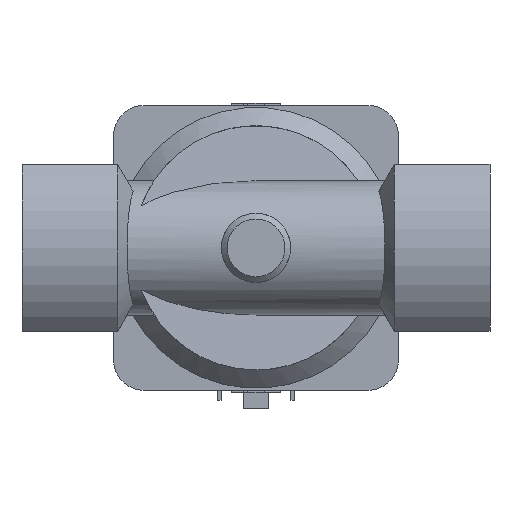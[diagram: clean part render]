
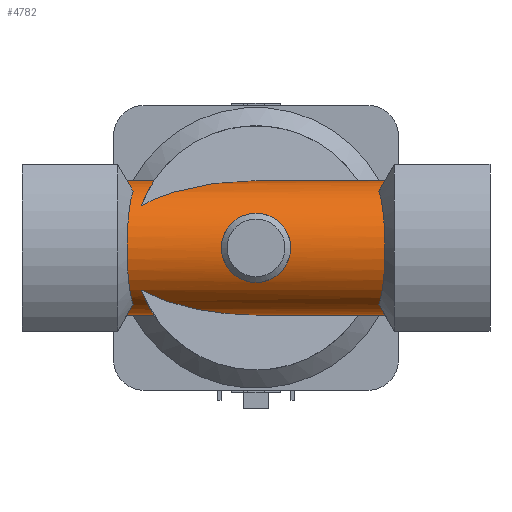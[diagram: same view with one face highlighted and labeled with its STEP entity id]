
A CAD part, front view. The second image highlights one B-rep face of the part: STEP entity #4782.
In plain terms, the highlighted cylindrical face has radius 16.5 mm (diameter 33 mm), a partial arc.
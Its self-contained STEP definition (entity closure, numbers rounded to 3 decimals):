
#442=LINE('',#7732,#882);
#443=LINE('',#7744,#883);
#444=LINE('',#7763,#884);
#445=LINE('',#7776,#885);
#882=VECTOR('',#6276,1000.);
#883=VECTOR('',#6279,1000.);
#884=VECTOR('',#6284,1000.);
#885=VECTOR('',#6287,1000.);
#1322=B_SPLINE_CURVE_WITH_KNOTS('',3,(#7717,#7718,#7719,#7720,#7721,#7722,
#7723,#7724,#7725,#7726,#7727,#7728),.UNSPECIFIED.,.F.,.F.,(4,1,1,1,1,1,
1,1,1,4),(0.001,0.009,0.014,0.016,
0.018,0.022,0.024,0.026,
0.03,0.034),.UNSPECIFIED.);
#1323=B_SPLINE_CURVE_WITH_KNOTS('',3,(#7734,#7735,#7736,#7737,#7738,#7739,
#7740),.UNSPECIFIED.,.F.,.F.,(4,1,1,1,4),(0.,0.004,
0.007,0.011,0.015),.UNSPECIFIED.);
#1324=B_SPLINE_CURVE_WITH_KNOTS('',3,(#7748,#7749,#7750,#7751,#7752,#7753,
#7754,#7755,#7756,#7757,#7758,#7759),.UNSPECIFIED.,.F.,.F.,(4,1,1,1,1,1,
1,1,1,4),(0.001,0.009,0.014,0.016,
0.018,0.022,0.024,0.026,
0.03,0.034),.UNSPECIFIED.);
#1325=B_SPLINE_CURVE_WITH_KNOTS('',3,(#7767,#7768,#7769,#7770,#7771,#7772,
#7773,#7774),.UNSPECIFIED.,.F.,.F.,(4,1,1,1,1,4),(0.002,0.006,
0.009,0.011,0.013,0.017),
 .UNSPECIFIED.);
#1326=B_SPLINE_CURVE_WITH_KNOTS('',3,(#7777,#7778,#7779,#7780,#7781,#7782,
#7783,#7784,#7785,#7786,#7787,#7788,#7789,#7790,#7791,#7792,#7793,#7794,
#7795,#7796),.UNSPECIFIED.,.T.,.F.,(1,1,1,1,1,1,1,1,1,1,1,1,1,1,1,1,1,1,
1,1,1,1,1,1),(-0.007,-0.003,-0.002,
0.,0.003,0.007,0.01,0.014,
0.017,0.02,0.024,0.027,
0.03,0.034,0.037,0.041,
0.044,0.047,0.051,0.052,
0.054,0.057,0.061,0.064),
 .UNSPECIFIED.);
#1375=ORIENTED_EDGE('',*,*,#2755,.F.);
#1376=ORIENTED_EDGE('',*,*,#2756,.F.);
#1377=ORIENTED_EDGE('',*,*,#2757,.F.);
#1378=ORIENTED_EDGE('',*,*,#2758,.F.);
#1379=ORIENTED_EDGE('',*,*,#2759,.T.);
#1380=ORIENTED_EDGE('',*,*,#2760,.F.);
#1381=ORIENTED_EDGE('',*,*,#2761,.F.);
#1382=ORIENTED_EDGE('',*,*,#2762,.T.);
#1383=ORIENTED_EDGE('',*,*,#2763,.T.);
#1384=ORIENTED_EDGE('',*,*,#2764,.T.);
#1385=ORIENTED_EDGE('',*,*,#2765,.F.);
#1386=ORIENTED_EDGE('',*,*,#2766,.F.);
#1387=ORIENTED_EDGE('',*,*,#2767,.T.);
#1388=ORIENTED_EDGE('',*,*,#2768,.F.);
#1389=ORIENTED_EDGE('',*,*,#2769,.F.);
#2755=EDGE_CURVE('',#3445,#3446,#3921,.F.);
#2756=EDGE_CURVE('',#3447,#3445,#1322,.T.);
#2757=EDGE_CURVE('',#3448,#3447,#3922,.F.);
#2758=EDGE_CURVE('',#3449,#3448,#442,.T.);
#2759=EDGE_CURVE('',#3449,#3450,#1323,.T.);
#2760=EDGE_CURVE('',#3451,#3450,#3923,.F.);
#2761=EDGE_CURVE('',#3452,#3451,#443,.T.);
#2762=EDGE_CURVE('',#3452,#3453,#3924,.T.);
#2763=EDGE_CURVE('',#3453,#3454,#1324,.T.);
#2764=EDGE_CURVE('',#3454,#3455,#3925,.T.);
#2765=EDGE_CURVE('',#3456,#3455,#444,.T.);
#2766=EDGE_CURVE('',#3457,#3456,#3926,.F.);
#2767=EDGE_CURVE('',#3457,#3458,#1325,.T.);
#2768=EDGE_CURVE('',#3446,#3458,#445,.T.);
#2769=EDGE_CURVE('',#3459,#3459,#1326,.T.);
#3445=VERTEX_POINT('',#7715);
#3446=VERTEX_POINT('',#7716);
#3447=VERTEX_POINT('',#7729);
#3448=VERTEX_POINT('',#7731);
#3449=VERTEX_POINT('',#7733);
#3450=VERTEX_POINT('',#7741);
#3451=VERTEX_POINT('',#7743);
#3452=VERTEX_POINT('',#7745);
#3453=VERTEX_POINT('',#7747);
#3454=VERTEX_POINT('',#7760);
#3455=VERTEX_POINT('',#7762);
#3456=VERTEX_POINT('',#7764);
#3457=VERTEX_POINT('',#7766);
#3458=VERTEX_POINT('',#7775);
#3459=VERTEX_POINT('',#7797);
#3921=ELLIPSE('',#5768,19.053,16.5);
#3922=ELLIPSE('',#5769,19.053,16.5);
#3923=ELLIPSE('',#5770,39.788,16.5);
#3924=ELLIPSE('',#5771,19.053,16.5);
#3925=ELLIPSE('',#5772,19.053,16.5);
#3926=ELLIPSE('',#5773,39.788,16.5);
#3937=EDGE_LOOP('',(#1375,#1376,#1377,#1378,#1379,#1380,#1381,#1382,#1383,
#1384,#1385,#1386,#1387,#1388));
#3938=EDGE_LOOP('',(#1389));
#4321=FACE_BOUND('',#3937,.T.);
#4322=FACE_BOUND('',#3938,.T.);
#4705=CYLINDRICAL_SURFACE('',#5767,16.5);
#4782=ADVANCED_FACE('',(#4321,#4322),#4705,.T.);
#5767=AXIS2_PLACEMENT_3D('',#7713,#6270,#6271);
#5768=AXIS2_PLACEMENT_3D('',#7714,#6272,#6273);
#5769=AXIS2_PLACEMENT_3D('',#7730,#6274,#6275);
#5770=AXIS2_PLACEMENT_3D('',#7742,#6277,#6278);
#5771=AXIS2_PLACEMENT_3D('',#7746,#6280,#6281);
#5772=AXIS2_PLACEMENT_3D('',#7761,#6282,#6283);
#5773=AXIS2_PLACEMENT_3D('',#7765,#6285,#6286);
#6270=DIRECTION('',(-1.,0.,0.));
#6271=DIRECTION('',(0.,0.,1.));
#6272=DIRECTION('',(0.866,0.,0.5));
#6273=DIRECTION('',(-0.5,0.,0.866));
#6274=DIRECTION('',(0.866,0.,-0.5));
#6275=DIRECTION('',(-0.5,0.,-0.866));
#6276=DIRECTION('',(-1.,0.,0.));
#6277=DIRECTION('',(0.415,-0.91,0.));
#6278=DIRECTION('',(-0.91,-0.415,0.));
#6279=DIRECTION('',(-1.,0.,0.));
#6280=DIRECTION('',(-0.866,0.,-0.5));
#6281=DIRECTION('',(-0.5,0.,0.866));
#6282=DIRECTION('',(-0.866,0.,0.5));
#6283=DIRECTION('',(-0.5,0.,-0.866));
#6284=DIRECTION('',(1.,0.,0.));
#6285=DIRECTION('',(0.415,-0.91,0.));
#6286=DIRECTION('',(-0.91,-0.415,0.));
#6287=DIRECTION('',(1.,0.,0.));
#7713=CARTESIAN_POINT('',(35.,0.,0.));
#7714=CARTESIAN_POINT('',(-22.164,0.,0.));
#7715=CARTESIAN_POINT('',(-30.223,-8.798,13.959));
#7716=CARTESIAN_POINT('',(-31.691,0.,16.5));
#7717=CARTESIAN_POINT('',(-30.223,-8.798,-13.959));
#7718=CARTESIAN_POINT('',(-30.692,-11.121,-12.494));
#7719=CARTESIAN_POINT('',(-31.245,-14.054,-9.414));
#7720=CARTESIAN_POINT('',(-31.579,-15.883,-4.831));
#7721=CARTESIAN_POINT('',(-31.674,-16.409,-2.113));
#7722=CARTESIAN_POINT('',(-31.707,-16.589,0.702));
#7723=CARTESIAN_POINT('',(-31.644,-16.239,3.461));
#7724=CARTESIAN_POINT('',(-31.485,-15.365,6.133));
#7725=CARTESIAN_POINT('',(-31.267,-14.183,8.629));
#7726=CARTESIAN_POINT('',(-30.878,-12.111,11.463));
#7727=CARTESIAN_POINT('',(-30.459,-9.968,13.221));
#7728=CARTESIAN_POINT('',(-30.223,-8.798,13.959));
#7729=CARTESIAN_POINT('',(-30.223,-8.798,-13.959));
#7730=CARTESIAN_POINT('',(-22.164,0.,0.));
#7731=CARTESIAN_POINT('',(-31.691,0.,-16.5));
#7732=CARTESIAN_POINT('',(35.,0.,-16.5));
#7733=CARTESIAN_POINT('',(-25.055,0.,-16.5));
#7734=CARTESIAN_POINT('',(-25.055,0.,-16.5));
#7735=CARTESIAN_POINT('',(-25.055,-1.27,-16.5));
#7736=CARTESIAN_POINT('',(-25.248,-3.75,-16.212));
#7737=CARTESIAN_POINT('',(-26.023,-7.272,-14.965));
#7738=CARTESIAN_POINT('',(-27.071,-10.361,-13.009));
#7739=CARTESIAN_POINT('',(-27.8,-12.065,-11.32));
#7740=CARTESIAN_POINT('',(-28.148,-12.828,-10.378));
#7741=CARTESIAN_POINT('',(-28.148,-12.828,-10.378));
#7742=CARTESIAN_POINT('',(0.,0.,0.));
#7743=CARTESIAN_POINT('',(0.,0.,-16.5));
#7744=CARTESIAN_POINT('',(35.,0.,-16.5));
#7745=CARTESIAN_POINT('',(31.691,0.,-16.5));
#7746=CARTESIAN_POINT('',(22.164,0.,0.));
#7747=CARTESIAN_POINT('',(30.223,-8.798,-13.959));
#7748=CARTESIAN_POINT('',(30.223,-8.798,-13.959));
#7749=CARTESIAN_POINT('',(30.692,-11.121,-12.494));
#7750=CARTESIAN_POINT('',(31.245,-14.054,-9.414));
#7751=CARTESIAN_POINT('',(31.579,-15.883,-4.831));
#7752=CARTESIAN_POINT('',(31.674,-16.409,-2.113));
#7753=CARTESIAN_POINT('',(31.707,-16.589,0.702));
#7754=CARTESIAN_POINT('',(31.644,-16.239,3.461));
#7755=CARTESIAN_POINT('',(31.485,-15.365,6.133));
#7756=CARTESIAN_POINT('',(31.267,-14.183,8.629));
#7757=CARTESIAN_POINT('',(30.878,-12.111,11.463));
#7758=CARTESIAN_POINT('',(30.459,-9.968,13.221));
#7759=CARTESIAN_POINT('',(30.223,-8.798,13.959));
#7760=CARTESIAN_POINT('',(30.223,-8.798,13.959));
#7761=CARTESIAN_POINT('',(22.164,0.,0.));
#7762=CARTESIAN_POINT('',(31.691,0.,16.5));
#7763=CARTESIAN_POINT('',(-35.,0.,16.5));
#7764=CARTESIAN_POINT('',(0.,0.,16.5));
#7765=CARTESIAN_POINT('',(0.,0.,0.));
#7766=CARTESIAN_POINT('',(-28.148,-12.828,10.378));
#7767=CARTESIAN_POINT('',(-28.148,-12.828,10.378));
#7768=CARTESIAN_POINT('',(-27.803,-12.07,11.314));
#7769=CARTESIAN_POINT('',(-27.07,-10.36,13.012));
#7770=CARTESIAN_POINT('',(-26.199,-7.785,14.637));
#7771=CARTESIAN_POINT('',(-25.64,-5.537,15.58));
#7772=CARTESIAN_POINT('',(-25.199,-3.129,16.285));
#7773=CARTESIAN_POINT('',(-25.055,-1.272,16.5));
#7774=CARTESIAN_POINT('',(-25.055,0.,16.5));
#7775=CARTESIAN_POINT('',(-25.055,0.,16.5));
#7776=CARTESIAN_POINT('',(-35.,0.,16.5));
#7777=CARTESIAN_POINT('',(-1.723,-14.215,-8.381));
#7778=CARTESIAN_POINT('',(0.581,-14.069,-8.618));
#7779=CARTESIAN_POINT('',(3.386,-14.436,-8.033));
#7780=CARTESIAN_POINT('',(6.151,-15.374,-6.167));
#7781=CARTESIAN_POINT('',(8.028,-16.25,-3.405));
#7782=CARTESIAN_POINT('',(8.733,-16.623,-0.024));
#7783=CARTESIAN_POINT('',(8.04,-16.256,3.384));
#7784=CARTESIAN_POINT('',(6.158,-15.377,6.159));
#7785=CARTESIAN_POINT('',(3.406,-14.441,8.025));
#7786=CARTESIAN_POINT('',(0.032,-13.995,8.733));
#7787=CARTESIAN_POINT('',(-3.373,-14.43,8.044));
#7788=CARTESIAN_POINT('',(-6.143,-15.371,6.175));
#7789=CARTESIAN_POINT('',(-8.027,-16.249,3.41));
#7790=CARTESIAN_POINT('',(-8.733,-16.623,0.025));
#7791=CARTESIAN_POINT('',(-8.043,-16.258,-3.378));
#7792=CARTESIAN_POINT('',(-6.159,-15.375,-6.164));
#7793=CARTESIAN_POINT('',(-3.845,-14.595,-7.72));
#7794=CARTESIAN_POINT('',(-1.723,-14.215,-8.381));
#7795=CARTESIAN_POINT('',(0.581,-14.069,-8.618));
#7796=CARTESIAN_POINT('',(3.386,-14.436,-8.033));
#7797=CARTESIAN_POINT('',(0.,-14.142,-8.5));
